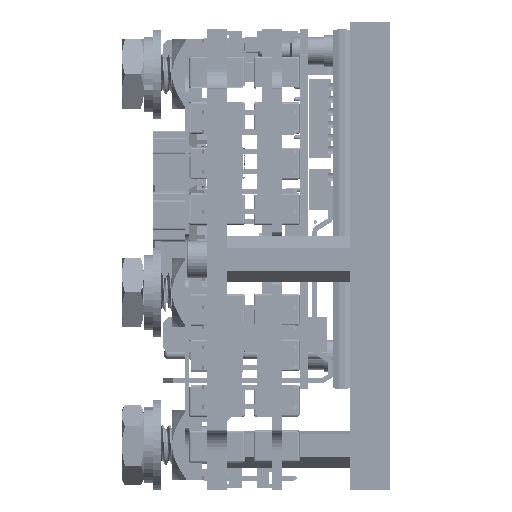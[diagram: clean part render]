
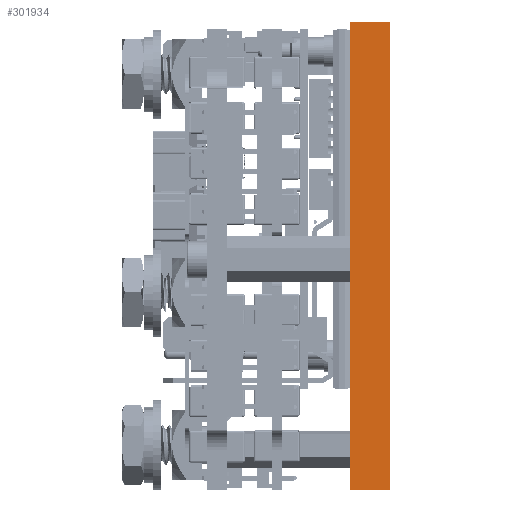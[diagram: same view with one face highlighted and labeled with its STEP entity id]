
A CAD part, left-side view. The second image highlights one B-rep face of the part: STEP entity #301934.
In plain terms, the highlighted planar face has unit normal (-1, 0, 0).
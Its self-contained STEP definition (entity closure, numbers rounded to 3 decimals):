
#1346 = CARTESIAN_POINT ( 'NONE',  ( -39., 0., 18.8 ) ) ;
#29052 = DIRECTION ( 'NONE',  ( 0., -1., 0. ) ) ;
#39629 = ORIENTED_EDGE ( 'NONE', *, *, #344507, .F. ) ;
#59400 = VECTOR ( 'NONE', #195351, 1000. ) ;
#75609 = VECTOR ( 'NONE', #106335, 1000. ) ;
#78724 = VERTEX_POINT ( 'NONE', #109753 ) ;
#82266 = PLANE ( 'NONE',  #147267 ) ;
#95575 = EDGE_CURVE ( 'NONE', #78724, #341382, #299758, .T. ) ;
#96034 = VERTEX_POINT ( 'NONE', #246092 ) ;
#100735 = CARTESIAN_POINT ( 'NONE',  ( -39., -4., -28.2 ) ) ;
#106335 = DIRECTION ( 'NONE',  ( 0., -1., 0. ) ) ;
#109753 = CARTESIAN_POINT ( 'NONE',  ( -39., -4., -28.2 ) ) ;
#121492 = LINE ( 'NONE', #1346, #186386 ) ;
#135163 = EDGE_CURVE ( 'NONE', #96034, #197147, #353378, .T. ) ;
#137455 = ORIENTED_EDGE ( 'NONE', *, *, #135163, .F. ) ;
#138027 = CARTESIAN_POINT ( 'NONE',  ( -39., 0., 18.8 ) ) ;
#139046 = CARTESIAN_POINT ( 'NONE',  ( -39., 0., -28.2 ) ) ;
#144076 = VECTOR ( 'NONE', #266475, 1000. ) ;
#147267 = AXIS2_PLACEMENT_3D ( 'NONE', #139046, #332343, #166872 ) ;
#153444 = EDGE_LOOP ( 'NONE', ( #302706, #39629, #137455, #246582 ) ) ;
#166872 = DIRECTION ( 'NONE',  ( 0., 0., -1. ) ) ;
#186386 = VECTOR ( 'NONE', #29052, 1000. ) ;
#195351 = DIRECTION ( 'NONE',  ( 0., 0., 1. ) ) ;
#197147 = VERTEX_POINT ( 'NONE', #138027 ) ;
#214242 = LINE ( 'NONE', #244334, #75609 ) ;
#223517 = EDGE_CURVE ( 'NONE', #96034, #78724, #214242, .T. ) ;
#244334 = CARTESIAN_POINT ( 'NONE',  ( -39., 0., -28.2 ) ) ;
#246092 = CARTESIAN_POINT ( 'NONE',  ( -39., 0., -28.2 ) ) ;
#246582 = ORIENTED_EDGE ( 'NONE', *, *, #223517, .T. ) ;
#266475 = DIRECTION ( 'NONE',  ( 0., 0., 1. ) ) ;
#299758 = LINE ( 'NONE', #100735, #144076 ) ;
#301934 = ADVANCED_FACE ( 'NONE', ( #332811 ), #82266, .F. ) ;
#302706 = ORIENTED_EDGE ( 'NONE', *, *, #95575, .T. ) ;
#306385 = CARTESIAN_POINT ( 'NONE',  ( -39., 0., -28.2 ) ) ;
#332343 = DIRECTION ( 'NONE',  ( 1., 0., 0. ) ) ;
#332811 = FACE_OUTER_BOUND ( 'NONE', #153444, .T. ) ;
#333724 = CARTESIAN_POINT ( 'NONE',  ( -39., -4., 18.8 ) ) ;
#341382 = VERTEX_POINT ( 'NONE', #333724 ) ;
#344507 = EDGE_CURVE ( 'NONE', #197147, #341382, #121492, .T. ) ;
#353378 = LINE ( 'NONE', #306385, #59400 ) ;
